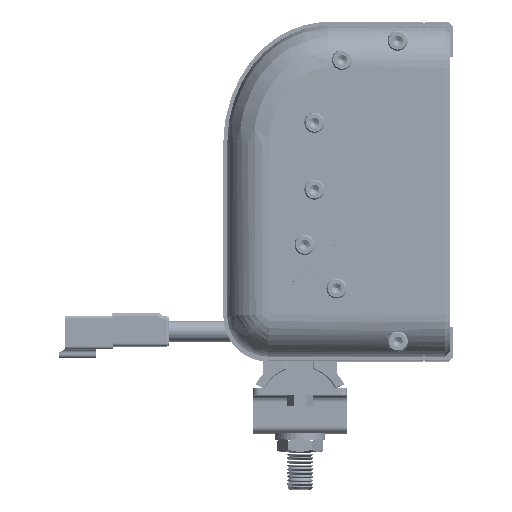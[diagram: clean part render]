
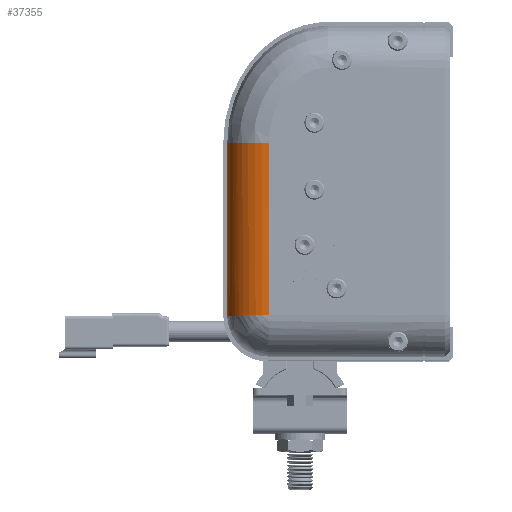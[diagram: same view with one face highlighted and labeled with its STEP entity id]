
A CAD part, top view. The second image highlights one B-rep face of the part: STEP entity #37355.
In plain terms, the highlighted cylindrical face has radius 16.51 mm (diameter 33.02 mm), a partial arc.
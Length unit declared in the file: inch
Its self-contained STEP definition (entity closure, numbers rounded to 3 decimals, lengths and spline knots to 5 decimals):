
#2292 = CARTESIAN_POINT ( 'NONE',  ( -0.40244, 1.33182, 0.556 ) ) ;
#2864 = CARTESIAN_POINT ( 'NONE',  ( -0.7832, -1.34497, 1.206 ) ) ;
#4987 = EDGE_CURVE ( 'NONE', #30891, #8212, #16691, .T. ) ;
#5415 = DIRECTION ( 'NONE',  ( 1., 0., 0. ) ) ;
#8212 = VERTEX_POINT ( 'NONE', #37464 ) ;
#9128 = CARTESIAN_POINT ( 'NONE',  ( -1.05244, -1.35118, 0.93676 ) ) ;
#9982 = DIRECTION ( 'NONE',  ( 0., 0., -1. ) ) ;
#10914 = DIRECTION ( 'NONE',  ( 0., 1., 0. ) ) ;
#12680 =( BOUNDED_CURVE ( )  B_SPLINE_CURVE ( 3, ( #33320, #2864, #9128, #30604 ),
 .UNSPECIFIED., .F., .F. ) 
 B_SPLINE_CURVE_WITH_KNOTS ( ( 4, 4 ),
 ( 1.5708, 3.14159 ),
 .UNSPECIFIED. ) 
 CURVE ( )  GEOMETRIC_REPRESENTATION_ITEM ( )  RATIONAL_B_SPLINE_CURVE ( ( 1., 0.805, 0.805, 1. ) ) 
 REPRESENTATION_ITEM ( '' )  );
#13277 = CARTESIAN_POINT ( 'NONE',  ( -0.40244, 1.33182, 1.206 ) ) ;
#13824 = CARTESIAN_POINT ( 'NONE',  ( -0.40244, -1.35118, 1.206 ) ) ;
#14972 = ORIENTED_EDGE ( 'NONE', *, *, #4987, .T. ) ;
#16135 = EDGE_LOOP ( 'NONE', ( #14972, #17898, #29128, #29593 ) ) ;
#16184 = DIRECTION ( 'NONE',  ( 0., -1., 0. ) ) ;
#16691 = CIRCLE ( 'NONE', #17101, 0.65 ) ;
#17101 = AXIS2_PLACEMENT_3D ( 'NONE', #2292, #23847, #5415 ) ;
#17457 = VERTEX_POINT ( 'NONE', #20044 ) ;
#17811 = CARTESIAN_POINT ( 'NONE',  ( -0.40244, -1.33618, 1.206 ) ) ;
#17898 = ORIENTED_EDGE ( 'NONE', *, *, #31730, .F. ) ;
#18231 = AXIS2_PLACEMENT_3D ( 'NONE', #19297, #16184, #9982 ) ;
#18246 = EDGE_CURVE ( 'NONE', #38903, #17457, #12680, .T. ) ;
#18694 = VECTOR ( 'NONE', #38449, 39.37008 ) ;
#19297 = CARTESIAN_POINT ( 'NONE',  ( -0.40244, 0., 0.556 ) ) ;
#20044 = CARTESIAN_POINT ( 'NONE',  ( -1.05244, -1.35118, 0.556 ) ) ;
#21584 = VECTOR ( 'NONE', #10914, 39.37008 ) ;
#23838 = EDGE_CURVE ( 'NONE', #30891, #38903, #35087, .T. ) ;
#23847 = DIRECTION ( 'NONE',  ( 0., -1., 0. ) ) ;
#27585 = CYLINDRICAL_SURFACE ( 'NONE', #18231, 0.65 ) ;
#28528 = FACE_OUTER_BOUND ( 'NONE', #16135, .T. ) ;
#29128 = ORIENTED_EDGE ( 'NONE', *, *, #18246, .F. ) ;
#29341 = CARTESIAN_POINT ( 'NONE',  ( -1.05244, 1.33182, 0.556 ) ) ;
#29593 = ORIENTED_EDGE ( 'NONE', *, *, #23838, .F. ) ;
#30604 = CARTESIAN_POINT ( 'NONE',  ( -1.05244, -1.35118, 0.556 ) ) ;
#30891 = VERTEX_POINT ( 'NONE', #13277 ) ;
#31730 = EDGE_CURVE ( 'NONE', #17457, #8212, #39941, .T. ) ;
#33320 = CARTESIAN_POINT ( 'NONE',  ( -0.40244, -1.33618, 1.206 ) ) ;
#35087 = LINE ( 'NONE', #13824, #18694 ) ;
#37355 = ADVANCED_FACE ( 'NONE', ( #28528 ), #27585, .T. ) ;
#37464 = CARTESIAN_POINT ( 'NONE',  ( -1.05244, 1.33182, 0.556 ) ) ;
#38449 = DIRECTION ( 'NONE',  ( 0., -1., 0. ) ) ;
#38903 = VERTEX_POINT ( 'NONE', #17811 ) ;
#39941 = LINE ( 'NONE', #29341, #21584 ) ;
